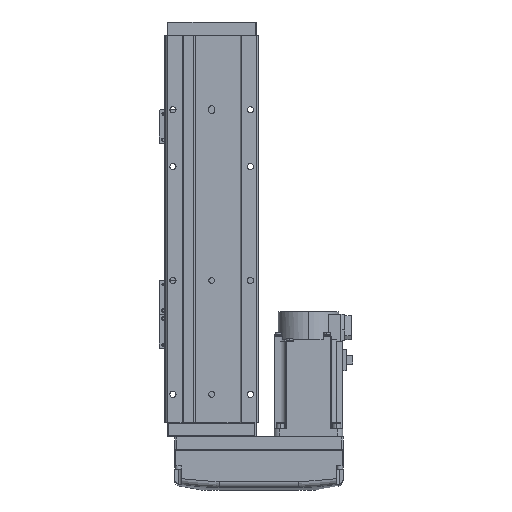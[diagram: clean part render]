
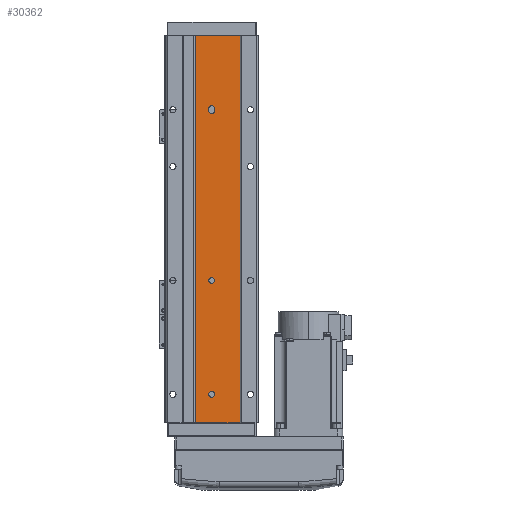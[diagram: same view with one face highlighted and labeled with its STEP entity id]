
A CAD part, front view. The second image highlights one B-rep face of the part: STEP entity #30362.
In plain terms, the highlighted planar face has unit normal (0, -1, 0).
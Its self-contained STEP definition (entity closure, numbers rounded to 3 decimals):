
#466 = ORIENTED_EDGE ( 'NONE', *, *, #36195, .F. ) ;
#1046 = CARTESIAN_POINT ( 'NONE',  ( 0., 1., -106. ) ) ;
#1165 = DIRECTION ( 'NONE',  ( 0., 0., -1. ) ) ;
#1216 = CARTESIAN_POINT ( 'NONE',  ( 0., 1., -106. ) ) ;
#1283 = FACE_BOUND ( 'NONE', #36918, .T. ) ;
#1463 = DIRECTION ( 'NONE',  ( 0., 0., -1. ) ) ;
#1719 = LINE ( 'NONE', #14177, #10116 ) ;
#2101 = ORIENTED_EDGE ( 'NONE', *, *, #24886, .F. ) ;
#2108 = AXIS2_PLACEMENT_3D ( 'NONE', #1046, #13501, #25985 ) ;
#2126 = LINE ( 'NONE', #14590, #8457 ) ;
#2409 = CIRCLE ( 'NONE', #25259, 2.5 ) ;
#2412 = DIRECTION ( 'NONE',  ( 0., 0., -1. ) ) ;
#2768 = VERTEX_POINT ( 'NONE', #26319 ) ;
#2921 = VERTEX_POINT ( 'NONE', #27534 ) ;
#4012 = VECTOR ( 'NONE', #2412, 1000. ) ;
#4734 = LINE ( 'NONE', #17207, #35478 ) ;
#4809 = AXIS2_PLACEMENT_3D ( 'NONE', #15328, #27791, #40258 ) ;
#4959 = CARTESIAN_POINT ( 'NONE',  ( 2.5, 1., -106. ) ) ;
#5967 = EDGE_CURVE ( 'NONE', #26763, #11519, #14355, .T. ) ;
#6556 = DIRECTION ( 'NONE',  ( 0., -1., 0. ) ) ;
#7603 = DIRECTION ( 'NONE',  ( 0., 0., 1. ) ) ;
#8347 = CARTESIAN_POINT ( 'NONE',  ( 0., 1., -108.5 ) ) ;
#8457 = VECTOR ( 'NONE', #27061, 1000. ) ;
#9022 = ORIENTED_EDGE ( 'NONE', *, *, #33013, .F. ) ;
#9132 = VERTEX_POINT ( 'NONE', #8347 ) ;
#10116 = VECTOR ( 'NONE', #26655, 1000. ) ;
#10386 = DIRECTION ( 'NONE',  ( 0., 0., -1. ) ) ;
#10680 = PLANE ( 'NONE',  #31166 ) ;
#11519 = VERTEX_POINT ( 'NONE', #35080 ) ;
#11913 = CARTESIAN_POINT ( 'NONE',  ( 2.5, 1., -104. ) ) ;
#11921 = LINE ( 'NONE', #24406, #26230 ) ;
#13210 = VERTEX_POINT ( 'NONE', #40034 ) ;
#13489 = EDGE_CURVE ( 'NONE', #2921, #23597, #2126, .T. ) ;
#13501 = DIRECTION ( 'NONE',  ( 0., -1., 0. ) ) ;
#13546 = VERTEX_POINT ( 'NONE', #30523 ) ;
#13674 = DIRECTION ( 'NONE',  ( 0., -1., 0. ) ) ;
#13737 = FACE_BOUND ( 'NONE', #17673, .T. ) ;
#13814 = EDGE_CURVE ( 'NONE', #18336, #13546, #35228, .T. ) ;
#14103 = EDGE_CURVE ( 'NONE', #13546, #18336, #39728, .T. ) ;
#14177 = CARTESIAN_POINT ( 'NONE',  ( -25., 1., -170. ) ) ;
#14355 = CIRCLE ( 'NONE', #37210, 2.5 ) ;
#14590 = CARTESIAN_POINT ( 'NONE',  ( -2.5, 1., -104. ) ) ;
#14613 = VECTOR ( 'NONE', #10386, 1000. ) ;
#15328 = CARTESIAN_POINT ( 'NONE',  ( 0., 1., 45. ) ) ;
#15416 = CARTESIAN_POINT ( 'NONE',  ( 0., 1., -104. ) ) ;
#15505 = ORIENTED_EDGE ( 'NONE', *, *, #17285, .F. ) ;
#15675 = ORIENTED_EDGE ( 'NONE', *, *, #37796, .F. ) ;
#16689 = CARTESIAN_POINT ( 'NONE',  ( 0., 1., 45. ) ) ;
#17051 = VERTEX_POINT ( 'NONE', #11913 ) ;
#17207 = CARTESIAN_POINT ( 'NONE',  ( -25., 1., 170. ) ) ;
#17285 = EDGE_CURVE ( 'NONE', #9132, #30392, #19736, .T. ) ;
#17620 = AXIS2_PLACEMENT_3D ( 'NONE', #20065, #29462, #1463 ) ;
#17673 = EDGE_LOOP ( 'NONE', ( #23183, #28868 ) ) ;
#17725 = ORIENTED_EDGE ( 'NONE', *, *, #13489, .F. ) ;
#17947 = LINE ( 'NONE', #30407, #4012 ) ;
#18336 = VERTEX_POINT ( 'NONE', #37111 ) ;
#18494 = ORIENTED_EDGE ( 'NONE', *, *, #33890, .F. ) ;
#19026 = DIRECTION ( 'NONE',  ( 0., 0., -1. ) ) ;
#19116 = AXIS2_PLACEMENT_3D ( 'NONE', #15416, #27888, #40358 ) ;
#19736 = CIRCLE ( 'NONE', #2108, 2.5 ) ;
#20032 = VERTEX_POINT ( 'NONE', #35391 ) ;
#20065 = CARTESIAN_POINT ( 'NONE',  ( 0., 1., 145. ) ) ;
#21253 = VERTEX_POINT ( 'NONE', #28122 ) ;
#22116 = AXIS2_PLACEMENT_3D ( 'NONE', #34559, #6556, #19026 ) ;
#22433 = CIRCLE ( 'NONE', #4809, 2.5 ) ;
#23155 = CARTESIAN_POINT ( 'NONE',  ( -25., 1., 170. ) ) ;
#23183 = ORIENTED_EDGE ( 'NONE', *, *, #14103, .F. ) ;
#23597 = VERTEX_POINT ( 'NONE', #39205 ) ;
#24070 = CARTESIAN_POINT ( 'NONE',  ( 0., 1., 47.5 ) ) ;
#24406 = CARTESIAN_POINT ( 'NONE',  ( 2.5, 1., -104. ) ) ;
#24794 = ORIENTED_EDGE ( 'NONE', *, *, #35602, .T. ) ;
#24886 = EDGE_CURVE ( 'NONE', #23597, #9132, #2409, .T. ) ;
#25259 = AXIS2_PLACEMENT_3D ( 'NONE', #1216, #13674, #26147 ) ;
#25923 = LINE ( 'NONE', #38380, #14613 ) ;
#25985 = DIRECTION ( 'NONE',  ( 0., 0., -1. ) ) ;
#26147 = DIRECTION ( 'NONE',  ( 0., 0., -1. ) ) ;
#26210 = FACE_BOUND ( 'NONE', #32001, .T. ) ;
#26230 = VECTOR ( 'NONE', #36863, 1000. ) ;
#26319 = CARTESIAN_POINT ( 'NONE',  ( 14., 1., 170. ) ) ;
#26655 = DIRECTION ( 'NONE',  ( 1., 0., 0. ) ) ;
#26763 = VERTEX_POINT ( 'NONE', #24070 ) ;
#27061 = DIRECTION ( 'NONE',  ( 0., 0., -1. ) ) ;
#27534 = CARTESIAN_POINT ( 'NONE',  ( -2.5, 1., -104. ) ) ;
#27791 = DIRECTION ( 'NONE',  ( 0., -1., 0. ) ) ;
#27888 = DIRECTION ( 'NONE',  ( 0., -1., 0. ) ) ;
#28122 = CARTESIAN_POINT ( 'NONE',  ( -25., 1., 170. ) ) ;
#28868 = ORIENTED_EDGE ( 'NONE', *, *, #13814, .F. ) ;
#29165 = DIRECTION ( 'NONE',  ( 0., -1., 0. ) ) ;
#29462 = DIRECTION ( 'NONE',  ( 0., -1., 0. ) ) ;
#29672 = DIRECTION ( 'NONE',  ( 1., 0., 0. ) ) ;
#30362 = ADVANCED_FACE ( 'NONE', ( #1283, #13737, #26210, #38681 ), #10680, .F. ) ;
#30392 = VERTEX_POINT ( 'NONE', #4959 ) ;
#30407 = CARTESIAN_POINT ( 'NONE',  ( -25., 1., 170. ) ) ;
#30523 = CARTESIAN_POINT ( 'NONE',  ( 0., 1., 142.5 ) ) ;
#31166 = AXIS2_PLACEMENT_3D ( 'NONE', #23155, #35611, #7603 ) ;
#32001 = EDGE_LOOP ( 'NONE', ( #18494, #39768 ) ) ;
#33013 = EDGE_CURVE ( 'NONE', #17051, #2921, #36740, .T. ) ;
#33890 = EDGE_CURVE ( 'NONE', #11519, #26763, #22433, .T. ) ;
#34074 = EDGE_CURVE ( 'NONE', #2768, #20032, #25923, .T. ) ;
#34559 = CARTESIAN_POINT ( 'NONE',  ( 0., 1., 145. ) ) ;
#34868 = ORIENTED_EDGE ( 'NONE', *, *, #34074, .F. ) ;
#35080 = CARTESIAN_POINT ( 'NONE',  ( 0., 1., 42.5 ) ) ;
#35228 = CIRCLE ( 'NONE', #17620, 2.5 ) ;
#35391 = CARTESIAN_POINT ( 'NONE',  ( 14., 1., -170. ) ) ;
#35478 = VECTOR ( 'NONE', #29672, 1000. ) ;
#35602 = EDGE_CURVE ( 'NONE', #21253, #13210, #17947, .T. ) ;
#35611 = DIRECTION ( 'NONE',  ( 0., 1., 0. ) ) ;
#36195 = EDGE_CURVE ( 'NONE', #30392, #17051, #11921, .T. ) ;
#36740 = CIRCLE ( 'NONE', #19116, 2.5 ) ;
#36863 = DIRECTION ( 'NONE',  ( 0., 0., 1. ) ) ;
#36918 = EDGE_LOOP ( 'NONE', ( #17725, #9022, #466, #15505, #2101 ) ) ;
#37111 = CARTESIAN_POINT ( 'NONE',  ( 0., 1., 147.5 ) ) ;
#37210 = AXIS2_PLACEMENT_3D ( 'NONE', #16689, #29165, #1165 ) ;
#37796 = EDGE_CURVE ( 'NONE', #21253, #2768, #4734, .T. ) ;
#38380 = CARTESIAN_POINT ( 'NONE',  ( 14., 1., 170. ) ) ;
#38541 = EDGE_LOOP ( 'NONE', ( #39105, #34868, #15675, #24794 ) ) ;
#38667 = EDGE_CURVE ( 'NONE', #13210, #20032, #1719, .T. ) ;
#38681 = FACE_OUTER_BOUND ( 'NONE', #38541, .T. ) ;
#39105 = ORIENTED_EDGE ( 'NONE', *, *, #38667, .T. ) ;
#39205 = CARTESIAN_POINT ( 'NONE',  ( -2.5, 1., -106. ) ) ;
#39728 = CIRCLE ( 'NONE', #22116, 2.5 ) ;
#39768 = ORIENTED_EDGE ( 'NONE', *, *, #5967, .F. ) ;
#40034 = CARTESIAN_POINT ( 'NONE',  ( -25., 1., -170. ) ) ;
#40258 = DIRECTION ( 'NONE',  ( 0., 0., -1. ) ) ;
#40358 = DIRECTION ( 'NONE',  ( 0., 0., -1. ) ) ;
